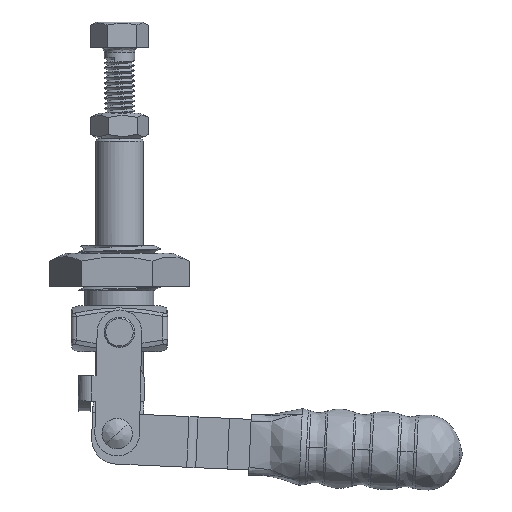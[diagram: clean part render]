
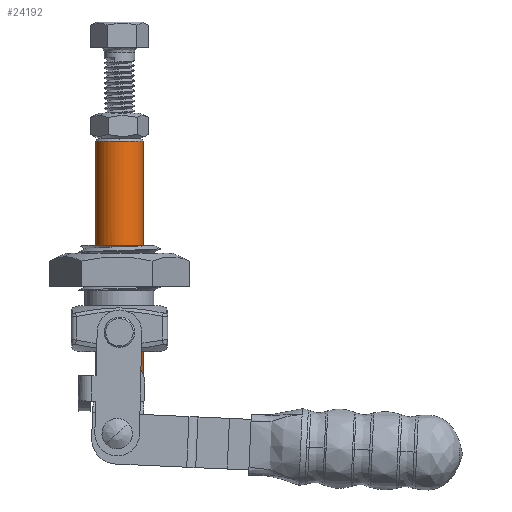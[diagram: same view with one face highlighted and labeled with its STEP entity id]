
A CAD part, front view. The second image highlights one B-rep face of the part: STEP entity #24192.
In plain terms, the highlighted cylindrical face has radius 4.7 mm (diameter 9.4 mm), a partial arc.
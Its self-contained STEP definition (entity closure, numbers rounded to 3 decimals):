
#120 = CARTESIAN_POINT ( 'NONE',  ( 4.7, 0., 52.7 ) ) ;
#966 = CARTESIAN_POINT ( 'NONE',  ( 0., -4.7, 3. ) ) ;
#1161 = AXIS2_PLACEMENT_3D ( 'NONE', #16584, #5042, #22344 ) ;
#1367 = CARTESIAN_POINT ( 'NONE',  ( -0.39, -4.685, 3.048 ) ) ;
#1452 = VERTEX_POINT ( 'NONE', #22013 ) ;
#1455 = CARTESIAN_POINT ( 'NONE',  ( -0.1, -4.7, 3. ) ) ;
#1558 = B_SPLINE_CURVE_WITH_KNOTS ( 'NONE', 3, ( #22873, #1455, #13379, #1367, #11333, #11257, #24652, #15052, #19070, #3446, #22693, #14971, #9470, #5391, #24895, #9387, #7531, #5569, #18983, #13290, #1705, #17169, #15302, #7362, #21092, #24814 ), .UNSPECIFIED., .F., .F., ( 4, 2, 2, 2, 2, 2, 2, 2, 2, 2, 2, 2, 4 ), ( 0., 0., 0.001, 0.001, 0.001, 0.002, 0.002, 0.003, 0.003, 0.004, 0.004, 0.004, 0.005 ), .UNSPECIFIED. ) ;
#1705 = CARTESIAN_POINT ( 'NONE',  ( -0.917, -4.61, 5.691 ) ) ;
#1730 = DIRECTION ( 'NONE',  ( -1., 0., 0. ) ) ;
#2359 = VECTOR ( 'NONE', #21571, 1000. ) ;
#3006 = EDGE_CURVE ( 'NONE', #8063, #16595, #21469, .T. ) ;
#3074 = CARTESIAN_POINT ( 'NONE',  ( 0.753, -4.64, 5.801 ) ) ;
#3298 = ORIENTED_EDGE ( 'NONE', *, *, #7446, .T. ) ;
#3360 = EDGE_CURVE ( 'NONE', #10829, #1452, #10231, .T. ) ;
#3446 = CARTESIAN_POINT ( 'NONE',  ( -1.198, -4.547, 3.577 ) ) ;
#3851 = DIRECTION ( 'NONE',  ( -1., 0., 0. ) ) ;
#4734 = CIRCLE ( 'NONE', #24559, 4.7 ) ;
#4871 = EDGE_LOOP ( 'NONE', ( #8956, #20566, #23593, #14445, #3298 ) ) ;
#4922 = DIRECTION ( 'NONE',  ( 0., 0., -1. ) ) ;
#4940 = FACE_OUTER_BOUND ( 'NONE', #4871, .T. ) ;
#5042 = DIRECTION ( 'NONE',  ( 0., 0., -1. ) ) ;
#5114 = CARTESIAN_POINT ( 'NONE',  ( 0.992, -4.595, 5.629 ) ) ;
#5238 = FACE_BOUND ( 'NONE', #17197, .T. ) ;
#5391 = CARTESIAN_POINT ( 'NONE',  ( -1.5, -4.454, 4.597 ) ) ;
#5569 = CARTESIAN_POINT ( 'NONE',  ( -1.31, -4.515, 5.257 ) ) ;
#6202 = CARTESIAN_POINT ( 'NONE',  ( -4.7, 0., 1. ) ) ;
#6897 = CARTESIAN_POINT ( 'NONE',  ( 1.46, -4.468, 4.897 ) ) ;
#6987 = CARTESIAN_POINT ( 'NONE',  ( 1.31, -4.515, 3.743 ) ) ;
#7168 = CARTESIAN_POINT ( 'NONE',  ( 0., -4.7, 3. ) ) ;
#7198 = VERTEX_POINT ( 'NONE', #966 ) ;
#7259 = CARTESIAN_POINT ( 'NONE',  ( 1.5, -4.454, 4.699 ) ) ;
#7344 = ORIENTED_EDGE ( 'NONE', *, *, #10015, .T. ) ;
#7362 = CARTESIAN_POINT ( 'NONE',  ( -0.397, -4.687, 5.96 ) ) ;
#7446 = EDGE_CURVE ( 'NONE', #10958, #16595, #10494, .T. ) ;
#7531 = CARTESIAN_POINT ( 'NONE',  ( -1.423, -4.479, 4.984 ) ) ;
#8063 = VERTEX_POINT ( 'NONE', #19078 ) ;
#8865 = CARTESIAN_POINT ( 'NONE',  ( 1.198, -4.547, 5.423 ) ) ;
#8955 = CARTESIAN_POINT ( 'NONE',  ( 1.31, -4.515, 5.257 ) ) ;
#8956 = ORIENTED_EDGE ( 'NONE', *, *, #3006, .F. ) ;
#9042 = CARTESIAN_POINT ( 'NONE',  ( 0.39, -4.685, 5.952 ) ) ;
#9339 = VECTOR ( 'NONE', #15581, 1000. ) ;
#9387 = CARTESIAN_POINT ( 'NONE',  ( -1.452, -4.47, 4.89 ) ) ;
#9409 = CARTESIAN_POINT ( 'NONE',  ( 0., 0., 1. ) ) ;
#9470 = CARTESIAN_POINT ( 'NONE',  ( -1.5, -4.454, 4.301 ) ) ;
#9638 = DIRECTION ( 'NONE',  ( 0., 0., -1. ) ) ;
#9913 = CARTESIAN_POINT ( 'NONE',  ( 4.7, 0., 1. ) ) ;
#10015 = EDGE_CURVE ( 'NONE', #21402, #7198, #15065, .T. ) ;
#10231 = CIRCLE ( 'NONE', #1161, 4.7 ) ;
#10494 = CIRCLE ( 'NONE', #10670, 4.7 ) ;
#10670 = AXIS2_PLACEMENT_3D ( 'NONE', #9409, #24917, #1730 ) ;
#10805 = CARTESIAN_POINT ( 'NONE',  ( 1.423, -4.479, 4.016 ) ) ;
#10829 = VERTEX_POINT ( 'NONE', #22313 ) ;
#10958 = VERTEX_POINT ( 'NONE', #6202 ) ;
#11145 = CARTESIAN_POINT ( 'NONE',  ( 0.198, -4.697, 5.99 ) ) ;
#11257 = CARTESIAN_POINT ( 'NONE',  ( -0.667, -4.653, 3.153 ) ) ;
#11333 = CARTESIAN_POINT ( 'NONE',  ( -0.486, -4.676, 3.077 ) ) ;
#12163 = CARTESIAN_POINT ( 'NONE',  ( 0., 0., 52.2 ) ) ;
#12419 = LINE ( 'NONE', #17678, #2359 ) ;
#12516 = CARTESIAN_POINT ( 'NONE',  ( 0., -4.7, 6. ) ) ;
#12712 = ORIENTED_EDGE ( 'NONE', *, *, #24855, .T. ) ;
#12854 = CARTESIAN_POINT ( 'NONE',  ( 0.668, -4.653, 3.153 ) ) ;
#13032 = CARTESIAN_POINT ( 'NONE',  ( 0., -4.7, 6. ) ) ;
#13107 = CARTESIAN_POINT ( 'NONE',  ( 0.755, -4.64, 3.2 ) ) ;
#13290 = CARTESIAN_POINT ( 'NONE',  ( -0.992, -4.595, 5.629 ) ) ;
#13379 = CARTESIAN_POINT ( 'NONE',  ( -0.198, -4.697, 3.01 ) ) ;
#14445 = ORIENTED_EDGE ( 'NONE', *, *, #17683, .T. ) ;
#14615 = CARTESIAN_POINT ( 'NONE',  ( 0.916, -4.611, 5.692 ) ) ;
#14698 = CARTESIAN_POINT ( 'NONE',  ( 0.667, -4.653, 5.847 ) ) ;
#14786 = CARTESIAN_POINT ( 'NONE',  ( 1.452, -4.47, 4.11 ) ) ;
#14957 = CYLINDRICAL_SURFACE ( 'NONE', #18500, 4.7 ) ;
#14971 = CARTESIAN_POINT ( 'NONE',  ( -1.46, -4.468, 4.103 ) ) ;
#15052 = CARTESIAN_POINT ( 'NONE',  ( -0.916, -4.611, 3.308 ) ) ;
#15065 = B_SPLINE_CURVE_WITH_KNOTS ( 'NONE', 3, ( #13032, #24460, #11145, #9042, #20571, #14698, #3074, #14615, #5114, #8865, #8955, #6897, #7259, #22417, #18601, #14786, #10805, #6987, #24628, #18864, #22497, #13107, #12854, #20827, #16819, #7168 ), .UNSPECIFIED., .F., .F., ( 4, 2, 2, 2, 2, 2, 2, 2, 2, 2, 2, 2, 4 ), ( 0.005, 0.005, 0.005, 0.006, 0.006, 0.006, 0.007, 0.007, 0.008, 0.008, 0.009, 0.009, 0.009 ), .UNSPECIFIED. ) ;
#15302 = CARTESIAN_POINT ( 'NONE',  ( -0.668, -4.653, 5.847 ) ) ;
#15581 = DIRECTION ( 'NONE',  ( 0., 0., -1. ) ) ;
#16584 = CARTESIAN_POINT ( 'NONE',  ( 0., 0., 52.2 ) ) ;
#16595 = VERTEX_POINT ( 'NONE', #9913 ) ;
#16631 = DIRECTION ( 'NONE',  ( -1., 0., 0. ) ) ;
#16819 = CARTESIAN_POINT ( 'NONE',  ( 0.2, -4.7, 3. ) ) ;
#17169 = CARTESIAN_POINT ( 'NONE',  ( -0.755, -4.64, 5.8 ) ) ;
#17197 = EDGE_LOOP ( 'NONE', ( #7344, #12712 ) ) ;
#17678 = CARTESIAN_POINT ( 'NONE',  ( -4.7, 0., 52.7 ) ) ;
#17683 = EDGE_CURVE ( 'NONE', #1452, #10958, #12419, .T. ) ;
#18500 = AXIS2_PLACEMENT_3D ( 'NONE', #21491, #9638, #3851 ) ;
#18601 = CARTESIAN_POINT ( 'NONE',  ( 1.49, -4.458, 4.303 ) ) ;
#18864 = CARTESIAN_POINT ( 'NONE',  ( 0.992, -4.595, 3.371 ) ) ;
#18983 = CARTESIAN_POINT ( 'NONE',  ( -1.199, -4.547, 5.422 ) ) ;
#19070 = CARTESIAN_POINT ( 'NONE',  ( -0.992, -4.595, 3.371 ) ) ;
#19078 = CARTESIAN_POINT ( 'NONE',  ( 4.7, 0., 52.2 ) ) ;
#20261 = EDGE_CURVE ( 'NONE', #8063, #10829, #4734, .T. ) ;
#20566 = ORIENTED_EDGE ( 'NONE', *, *, #20261, .T. ) ;
#20571 = CARTESIAN_POINT ( 'NONE',  ( 0.486, -4.676, 5.923 ) ) ;
#20827 = CARTESIAN_POINT ( 'NONE',  ( 0.397, -4.687, 3.04 ) ) ;
#21092 = CARTESIAN_POINT ( 'NONE',  ( -0.2, -4.7, 6. ) ) ;
#21402 = VERTEX_POINT ( 'NONE', #12516 ) ;
#21469 = LINE ( 'NONE', #120, #9339 ) ;
#21491 = CARTESIAN_POINT ( 'NONE',  ( 0., 0., 52.7 ) ) ;
#21571 = DIRECTION ( 'NONE',  ( 0., 0., -1. ) ) ;
#22013 = CARTESIAN_POINT ( 'NONE',  ( -4.7, 0., 52.2 ) ) ;
#22313 = CARTESIAN_POINT ( 'NONE',  ( 0., -4.7, 52.2 ) ) ;
#22344 = DIRECTION ( 'NONE',  ( -1., 0., 0. ) ) ;
#22417 = CARTESIAN_POINT ( 'NONE',  ( 1.5, -4.454, 4.403 ) ) ;
#22497 = CARTESIAN_POINT ( 'NONE',  ( 0.917, -4.61, 3.309 ) ) ;
#22693 = CARTESIAN_POINT ( 'NONE',  ( -1.31, -4.515, 3.743 ) ) ;
#22873 = CARTESIAN_POINT ( 'NONE',  ( 0., -4.7, 3. ) ) ;
#23593 = ORIENTED_EDGE ( 'NONE', *, *, #3360, .T. ) ;
#24192 = ADVANCED_FACE ( 'NONE', ( #4940, #5238 ), #14957, .T. ) ;
#24460 = CARTESIAN_POINT ( 'NONE',  ( 0.1, -4.7, 6. ) ) ;
#24559 = AXIS2_PLACEMENT_3D ( 'NONE', #12163, #4922, #16631 ) ;
#24628 = CARTESIAN_POINT ( 'NONE',  ( 1.199, -4.547, 3.578 ) ) ;
#24652 = CARTESIAN_POINT ( 'NONE',  ( -0.753, -4.64, 3.199 ) ) ;
#24814 = CARTESIAN_POINT ( 'NONE',  ( 0., -4.7, 6. ) ) ;
#24855 = EDGE_CURVE ( 'NONE', #7198, #21402, #1558, .T. ) ;
#24895 = CARTESIAN_POINT ( 'NONE',  ( -1.49, -4.458, 4.697 ) ) ;
#24917 = DIRECTION ( 'NONE',  ( 0., 0., 1. ) ) ;
